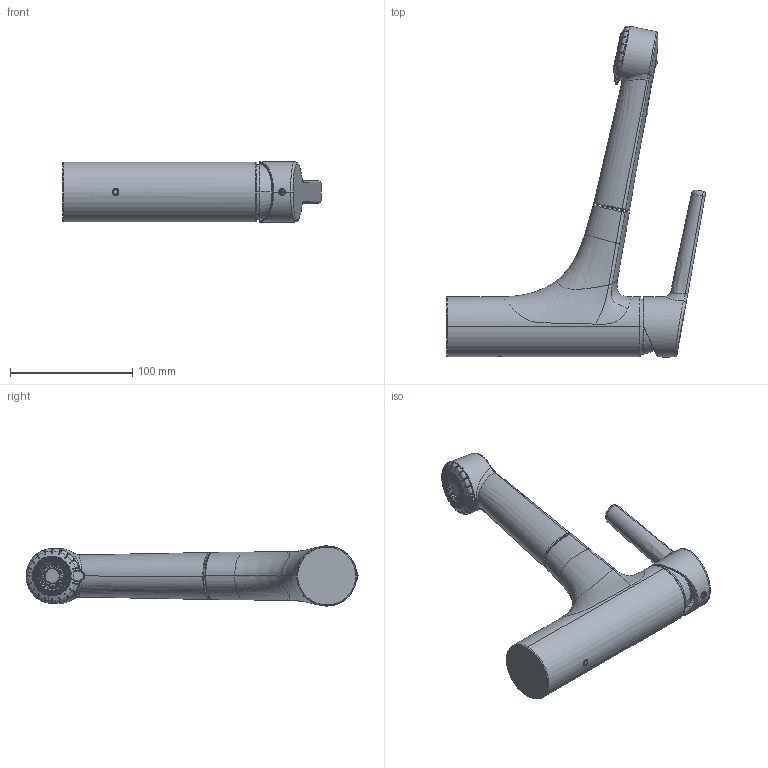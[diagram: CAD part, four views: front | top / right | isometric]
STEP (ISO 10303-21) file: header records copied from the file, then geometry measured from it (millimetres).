
FILE_DESCRIPTION((''),'2;1');
FILE_NAME('10171033','2016-07-21T',('peig'),(''),'PRO/ENGINEER BY PARAMETRIC TECHNOLOGY CORPORATION, 2014000','PRO/ENGINEER BY PARAMETRIC TECHNOLOGY CORPORATION, 2014000','');
FILE_SCHEMA(('CONFIG_CONTROL_DESIGN'));
Products named in the file (1): 10171033
Bounding box: 211.6 x 271.44 x 49.2 mm (x, y, z)
Volume: 578931.2 mm3; surface area: 75208.4 mm2
Topology: 1 solids, 1 shells, 1083 faces, 3004 edges, 1948 vertices
Faces by surface type: bspline 448, plane 244, cylinder 152, torus 146, cone 63, sphere 30
Entity records: 81885 total; most frequent: CARTESIAN_POINT 57948, ORIENTED_EDGE 5984, DIRECTION 3604, EDGE_CURVE 2992, VERTEX_POINT 1948, B_SPLINE_CURVE_WITH_KNOTS 1557, AXIS2_PLACEMENT_3D 1534, EDGE_LOOP 1174
